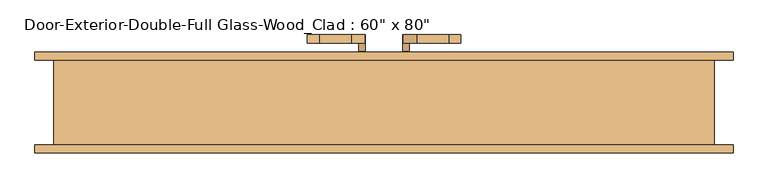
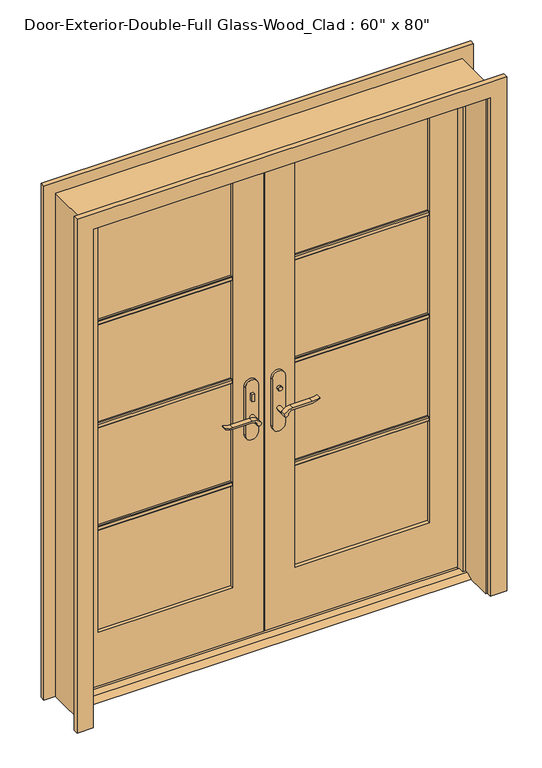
"""IFC4 building model written with IfcOpenShell, lengths in millimetres: door geometry."""

from ifc_helpers import new_model, si_unit, point, frame, frame_2d, origin, place, context, project, spatial, polyline, circle_curve, trimmed, segment, composite_curve, outline, extrude, faceted_brep, source, transform, mapped, element, save


def door_8f7b1e5f(model_context):
    return source(origin(), model_context, "Body", "SolidModel", [
        extrude(outline(polyline([(19.05, 12.7), (53.975, 12.7), (79.375, 0.0), (-6.35, 0.0), (19.05, 12.7)])), frame((-762.0, 0.0, 0.0), z_axis=(1.0, 0.0, 0.0), x_axis=(0.0, 1.0, 0.0)), (0.0, 0.0, 1.0), 1524.0),
        extrude(outline(polyline([(-47.4019111, 43.5), (-57.4019111, 43.5), (-57.4019111, 53.5), (-47.4019111, 53.5), (-47.4019111, 43.5)])), frame((0.0, 0.0, 981.9), z_axis=(0.0, 0.0, 1.0), x_axis=(1.0, 0.0, 0.0)), (0.0, 0.0, 1.0), 30.0),
        extrude(outline(composite_curve([segment(trimmed(circle_curve(frame_2d((996.9, -52.4019111)), 8.0), [point((996.9, -60.4019111))], [point((996.9, -44.4019111))], False, "CARTESIAN"), True, "CONTINUOUS"), segment(trimmed(circle_curve(frame_2d((996.9, -52.4019111)), 8.0), [point((996.9, -44.4019111))], [point((996.9, -60.4019111))], False, "CARTESIAN"), True, "CONTINUOUS")], self_intersect=False)), frame((0.0, 108.425, 0.0), z_axis=(0.0, 1.0, 0.0), x_axis=(0.0, 0.0, 1.0)), (0.0, 0.0, 1.0), 10.0),
        extrude(outline(composite_curve([segment(trimmed(circle_curve(frame_2d((897.1555521, -76.0694241)), 37.2832219), [point((919.0523287, -45.8937749))], [point((934.4, -77.7693445))], False, "CARTESIAN"), True, "CONTINUOUS"), segment(polyline([(934.4, -77.7693445), (934.4, -154.045502)]), True, "CONTINUOUS"), segment(trimmed(circle_curve(frame_2d((1017.6850638, -153.9791202)), 83.2850902), [point((934.4, -154.045502))], [point((939.4, -182.4019111))], True, "CARTESIAN"), True, "CONTINUOUS"), segment(polyline([(939.4, -182.4019111), (936.6135558, -182.4019111)]), True, "CONTINUOUS"), segment(trimmed(circle_curve(frame_2d((986.6709207, -150.4622499)), 59.3791355), [point((936.6135558, -182.4019111))], [point((927.4, -154.045502))], False, "CARTESIAN"), True, "CONTINUOUS"), segment(polyline([(927.4, -154.045502), (927.4, -77.7881013)]), True, "CONTINUOUS"), segment(trimmed(circle_curve(frame_2d((909.2738613, -77.7881013)), 18.1261387), [point((927.4, -77.7881013))], [point((914.4, -60.4019111))], True, "CARTESIAN"), True, "CONTINUOUS"), segment(trimmed(circle_curve(frame_2d((914.4, -52.4019111)), 8.0), [point((914.4, -60.4019111))], [point((919.0523287, -45.8937749))], False, "CARTESIAN"), True, "CONTINUOUS")], self_intersect=False)), frame((0.0, 3.5, 0.0), z_axis=(0.0, 1.0, 0.0), x_axis=(0.0, 0.0, 1.0)), (0.0, 0.0, 1.0), 20.0),
        extrude(outline(composite_curve([segment(trimmed(circle_curve(frame_2d((914.4, -52.4019111)), 8.0), [point((914.3999903, -60.4019111))], [point((919.0523287, -45.8937749))], False, "CARTESIAN"), True, "CONTINUOUS"), segment(trimmed(circle_curve(frame_2d((897.1555521, -76.0694241)), 37.2832219), [point((919.0523287, -45.8937749))], [point((934.4, -77.7693445))], False, "CARTESIAN"), True, "CONTINUOUS"), segment(polyline([(934.4, -77.7693445), (934.4, -154.045502)]), True, "CONTINUOUS"), segment(trimmed(circle_curve(frame_2d((1017.6850638, -153.9791202)), 83.2850902), [point((934.4, -154.045502))], [point((939.4, -182.4019111))], True, "CARTESIAN"), True, "CONTINUOUS"), segment(polyline([(939.4, -182.4019111), (936.6135558, -182.4019111)]), True, "CONTINUOUS"), segment(trimmed(circle_curve(frame_2d((986.6709207, -150.4622499)), 59.3791355), [point((936.6135558, -182.4019111))], [point((927.4, -154.045502))], False, "CARTESIAN"), True, "CONTINUOUS"), segment(polyline([(927.4, -154.045502), (927.4, -77.788099)]), True, "CONTINUOUS"), segment(trimmed(circle_curve(frame_2d((909.2738682, -77.788099)), 18.1261318), [point((927.4, -77.788099))], [point((914.3999903, -60.4019111))], True, "CARTESIAN"), True, "CONTINUOUS")], self_intersect=False)), frame((0.0, 138.425, 0.0), z_axis=(0.0, 1.0, 0.0), x_axis=(0.0, 0.0, 1.0)), (0.0, 0.0, 1.0), 20.0),
        extrude(outline(composite_curve([segment(trimmed(circle_curve(frame_2d((914.4, -52.4019111)), 8.0), [point((914.4, -60.4019111))], [point((914.4, -44.4019111))], False, "CARTESIAN"), True, "CONTINUOUS"), segment(trimmed(circle_curve(frame_2d((914.4, -52.4019111)), 8.0), [point((914.4, -44.4019111))], [point((914.4, -60.4019111))], False, "CARTESIAN"), True, "CONTINUOUS")], self_intersect=False)), frame((0.0, 23.5, 0.0), z_axis=(0.0, 1.0, 0.0), x_axis=(0.0, 0.0, 1.0)), (0.0, 0.0, 1.0), 30.0),
        extrude(outline(composite_curve([segment(trimmed(circle_curve(frame_2d((914.4, -52.4019111)), 8.0), [point((914.4, -60.4019111))], [point((914.4, -44.4019111))], False, "CARTESIAN"), True, "CONTINUOUS"), segment(trimmed(circle_curve(frame_2d((914.4, -52.4019111)), 8.0), [point((914.4, -44.4019111))], [point((914.4, -60.4019111))], False, "CARTESIAN"), True, "CONTINUOUS")], self_intersect=False)), frame((0.0, 108.425, 0.0), z_axis=(0.0, 1.0, 0.0), x_axis=(0.0, 0.0, 1.0)), (0.0, 0.0, 1.0), 30.0),
        extrude(outline(composite_curve([segment(polyline([(844.4, -27.4019111), (1039.4, -27.4019111)]), True, "CONTINUOUS"), segment(trimmed(circle_curve(frame_2d((1039.4, -52.4019111)), 25.0), [point((1039.4, -27.4019111))], [point((1039.4, -77.4019111))], False, "CARTESIAN"), True, "CONTINUOUS"), segment(polyline([(1039.4, -77.4019111), (844.4, -77.4019111)]), True, "CONTINUOUS"), segment(trimmed(circle_curve(frame_2d((844.4, -52.4019111)), 25.0), [point((844.4, -77.4019111))], [point((844.4, -27.4019111))], False, "CARTESIAN"), True, "CONTINUOUS")], self_intersect=False)), frame((0.0, 53.5, 0.0), z_axis=(0.0, 1.0, 0.0), x_axis=(0.0, 0.0, 1.0)), (0.0, 0.0, 1.0), 10.0),
        extrude(outline(composite_curve([segment(polyline([(844.4, -27.4019111), (1039.4, -27.4019111)]), True, "CONTINUOUS"), segment(trimmed(circle_curve(frame_2d((1039.4, -52.4019111)), 25.0), [point((1039.4, -27.4019111))], [point((1039.4, -77.4019111))], False, "CARTESIAN"), True, "CONTINUOUS"), segment(polyline([(1039.4, -77.4019111), (844.4, -77.4019111)]), True, "CONTINUOUS"), segment(trimmed(circle_curve(frame_2d((844.4, -52.4019111)), 25.0), [point((844.4, -77.4019111))], [point((844.4, -27.4019111))], False, "CARTESIAN"), True, "CONTINUOUS")], self_intersect=False)), frame((0.0, 98.425, 0.0), z_axis=(0.0, 1.0, 0.0), x_axis=(0.0, 0.0, 1.0)), (0.0, 0.0, 1.0), 10.0),
        extrude(outline(polyline([(47.3875, 118.425), (57.3875, 118.425), (57.3875, 108.425), (47.3875, 108.425), (47.3875, 118.425)])), frame((0.0, 0.0, 981.9), z_axis=(0.0, 0.0, 1.0), x_axis=(1.0, 0.0, 0.0)), (0.0, 0.0, 1.0), 30.0),
        extrude(outline(composite_curve([segment(trimmed(circle_curve(frame_2d((996.9, 52.3875)), 8.0), [point((996.9, 60.3875))], [point((996.9, 44.3875))], False, "CARTESIAN"), True, "CONTINUOUS"), segment(trimmed(circle_curve(frame_2d((996.9, 52.3875)), 8.0), [point((996.9, 44.3875))], [point((996.9, 60.3875))], False, "CARTESIAN"), True, "CONTINUOUS")], self_intersect=False)), frame((0.0, 43.5, 0.0), z_axis=(0.0, 1.0, 0.0), x_axis=(0.0, 0.0, 1.0)), (0.0, 0.0, 1.0), 10.0),
        extrude(outline(composite_curve([segment(trimmed(circle_curve(frame_2d((914.4, 52.3875)), 8.0), [point((919.0523287, 45.8793637))], [point((914.4, 60.3875))], False, "CARTESIAN"), True, "CONTINUOUS"), segment(trimmed(circle_curve(frame_2d((909.2738613, 77.7736901)), 18.1261387), [point((914.4, 60.3875))], [point((927.4, 77.7736901))], True, "CARTESIAN"), True, "CONTINUOUS"), segment(polyline([(927.4, 77.7736901), (927.4, 154.0310909)]), True, "CONTINUOUS"), segment(trimmed(circle_curve(frame_2d((986.6709207, 150.4478388)), 59.3791355), [point((927.4, 154.0310909))], [point((936.6135558, 182.3875))], False, "CARTESIAN"), True, "CONTINUOUS"), segment(polyline([(936.6135558, 182.3875), (939.4, 182.3875)]), True, "CONTINUOUS"), segment(trimmed(circle_curve(frame_2d((1017.6850638, 153.9647091)), 83.2850902), [point((939.4, 182.3875))], [point((934.4, 154.0310909))], True, "CARTESIAN"), True, "CONTINUOUS"), segment(polyline([(934.4, 154.0310909), (934.4, 77.7549333)]), True, "CONTINUOUS"), segment(trimmed(circle_curve(frame_2d((897.1555521, 76.0550129)), 37.2832219), [point((934.4, 77.7549333))], [point((919.0523287, 45.8793637))], False, "CARTESIAN"), True, "CONTINUOUS")], self_intersect=False)), frame((0.0, 138.425, 0.0), z_axis=(0.0, 1.0, 0.0), x_axis=(0.0, 0.0, 1.0)), (0.0, 0.0, 1.0), 20.0),
        extrude(outline(composite_curve([segment(trimmed(circle_curve(frame_2d((909.2738682, 77.7736878)), 18.1261318), [point((914.3999903, 60.3875))], [point((927.4, 77.7736878))], True, "CARTESIAN"), True, "CONTINUOUS"), segment(polyline([(927.4, 77.7736878), (927.4, 154.0310909)]), True, "CONTINUOUS"), segment(trimmed(circle_curve(frame_2d((986.6709207, 150.4478388)), 59.3791355), [point((927.4, 154.0310909))], [point((936.6135558, 182.3875))], False, "CARTESIAN"), True, "CONTINUOUS"), segment(polyline([(936.6135558, 182.3875), (939.4, 182.3875)]), True, "CONTINUOUS"), segment(trimmed(circle_curve(frame_2d((1017.6850638, 153.9647091)), 83.2850902), [point((939.4, 182.3875))], [point((934.4, 154.0310909))], True, "CARTESIAN"), True, "CONTINUOUS"), segment(polyline([(934.4, 154.0310909), (934.4, 77.7549333)]), True, "CONTINUOUS"), segment(trimmed(circle_curve(frame_2d((897.1555521, 76.0550129)), 37.2832219), [point((934.4, 77.7549333))], [point((919.0523287, 45.8793637))], False, "CARTESIAN"), True, "CONTINUOUS"), segment(trimmed(circle_curve(frame_2d((914.4, 52.3875)), 8.0), [point((919.0523287, 45.8793637))], [point((914.3999903, 60.3875))], False, "CARTESIAN"), True, "CONTINUOUS")], self_intersect=False)), frame((0.0, 3.5, 0.0), z_axis=(0.0, 1.0, 0.0), x_axis=(0.0, 0.0, 1.0)), (0.0, 0.0, 1.0), 20.0),
        extrude(outline(composite_curve([segment(trimmed(circle_curve(frame_2d((914.4, 52.3875)), 8.0), [point((914.4, 60.3875))], [point((914.4, 44.3875))], False, "CARTESIAN"), True, "CONTINUOUS"), segment(trimmed(circle_curve(frame_2d((914.4, 52.3875)), 8.0), [point((914.4, 44.3875))], [point((914.4, 60.3875))], False, "CARTESIAN"), True, "CONTINUOUS")], self_intersect=False)), frame((0.0, 108.425, 0.0), z_axis=(0.0, 1.0, 0.0), x_axis=(0.0, 0.0, 1.0)), (0.0, 0.0, 1.0), 30.0),
        extrude(outline(composite_curve([segment(trimmed(circle_curve(frame_2d((914.4, 52.3875)), 8.0), [point((914.4, 60.3875))], [point((914.4, 44.3875))], False, "CARTESIAN"), True, "CONTINUOUS"), segment(trimmed(circle_curve(frame_2d((914.4, 52.3875)), 8.0), [point((914.4, 44.3875))], [point((914.4, 60.3875))], False, "CARTESIAN"), True, "CONTINUOUS")], self_intersect=False)), frame((0.0, 23.5, 0.0), z_axis=(0.0, 1.0, 0.0), x_axis=(0.0, 0.0, 1.0)), (0.0, 0.0, 1.0), 30.0),
        extrude(outline(composite_curve([segment(trimmed(circle_curve(frame_2d((844.4, 52.3875)), 25.0), [point((844.4, 27.3875))], [point((844.4, 77.3875))], False, "CARTESIAN"), True, "CONTINUOUS"), segment(polyline([(844.4, 77.3875), (1039.4, 77.3875)]), True, "CONTINUOUS"), segment(trimmed(circle_curve(frame_2d((1039.4, 52.3875)), 25.0), [point((1039.4, 77.3875))], [point((1039.4, 27.3875))], False, "CARTESIAN"), True, "CONTINUOUS"), segment(polyline([(1039.4, 27.3875), (844.4, 27.3875)]), True, "CONTINUOUS")], self_intersect=False)), frame((0.0, 98.425, 0.0), z_axis=(0.0, 1.0, 0.0), x_axis=(0.0, 0.0, 1.0)), (0.0, 0.0, 1.0), 10.0),
        extrude(outline(composite_curve([segment(trimmed(circle_curve(frame_2d((844.4, 52.3875)), 25.0), [point((844.4, 27.3875))], [point((844.4, 77.3875))], False, "CARTESIAN"), True, "CONTINUOUS"), segment(polyline([(844.4, 77.3875), (1039.4, 77.3875)]), True, "CONTINUOUS"), segment(trimmed(circle_curve(frame_2d((1039.4, 52.3875)), 25.0), [point((1039.4, 77.3875))], [point((1039.4, 27.3875))], False, "CARTESIAN"), True, "CONTINUOUS"), segment(polyline([(1039.4, 27.3875), (844.4, 27.3875)]), True, "CONTINUOUS")], self_intersect=False)), frame((0.0, 53.5, 0.0), z_axis=(0.0, 1.0, 0.0), x_axis=(0.0, 0.0, 1.0)), (0.0, 0.0, 1.0), 10.0),
        extrude(outline(polyline([(77.47, 1502.171875), (77.47, 1483.121875), (71.12, 1483.121875), (67.945, 1486.296875), (67.945, 1498.996875), (71.12, 1502.171875), (77.47, 1502.171875)])), frame((120.65, 0.0, 0.0), z_axis=(1.0, 0.0, 0.0), x_axis=(0.0, 1.0, 0.0)), (0.0, 0.0, 1.0), 520.7),
        extrude(outline(polyline([(77.47, 1081.88125), (77.47, 1062.83125), (71.12, 1062.83125), (67.945, 1066.00625), (67.945, 1078.70625), (71.12, 1081.88125), (77.47, 1081.88125)])), frame((120.65, 0.0, 0.0), z_axis=(1.0, 0.0, 0.0), x_axis=(0.0, 1.0, 0.0)), (0.0, 0.0, 1.0), 520.7),
        extrude(outline(polyline([(77.47, 661.590625), (77.47, 642.540625), (71.12, 642.540625), (67.945, 645.715625), (67.945, 658.415625), (71.12, 661.590625), (77.47, 661.590625)])), frame((120.65, 0.0, 0.0), z_axis=(1.0, 0.0, 0.0), x_axis=(0.0, 1.0, 0.0)), (0.0, 0.0, 1.0), 520.7),
        extrude(outline(polyline([(84.455, 1502.171875), (90.805, 1502.171875), (93.98, 1498.996875), (93.98, 1486.296875), (90.805, 1483.121875), (84.455, 1483.121875), (84.455, 1502.171875)])), frame((-641.35, 0.0, 0.0), z_axis=(1.0, 0.0, 0.0), x_axis=(0.0, 1.0, 0.0)), (0.0, 0.0, 1.0), 520.7),
        extrude(outline(polyline([(84.455, 1081.88125), (90.805, 1081.88125), (93.98, 1078.70625), (93.98, 1066.00625), (90.805, 1062.83125), (84.455, 1062.83125), (84.455, 1081.88125)])), frame((-641.35, 0.0, 0.0), z_axis=(1.0, 0.0, 0.0), x_axis=(0.0, 1.0, 0.0)), (0.0, 0.0, 1.0), 520.7),
        extrude(outline(polyline([(84.455, 661.590625), (90.805, 661.590625), (93.98, 658.415625), (93.98, 645.715625), (90.805, 642.540625), (84.455, 642.540625), (84.455, 661.590625)])), frame((-641.35, 0.0, 0.0), z_axis=(1.0, 0.0, 0.0), x_axis=(0.0, 1.0, 0.0)), (0.0, 0.0, 1.0), 520.7),
        extrude(outline(polyline([(84.455, 1502.171875), (90.805, 1502.171875), (93.98, 1498.996875), (93.98, 1486.296875), (90.805, 1483.121875), (84.455, 1483.121875), (84.455, 1502.171875)])), frame((120.65, 0.0, 0.0), z_axis=(1.0, 0.0, 0.0), x_axis=(0.0, 1.0, 0.0)), (0.0, 0.0, 1.0), 520.7),
        extrude(outline(polyline([(84.455, 1081.88125), (90.805, 1081.88125), (93.98, 1078.70625), (93.98, 1066.00625), (90.805, 1062.83125), (84.455, 1062.83125), (84.455, 1081.88125)])), frame((120.65, 0.0, 0.0), z_axis=(1.0, 0.0, 0.0), x_axis=(0.0, 1.0, 0.0)), (0.0, 0.0, 1.0), 520.7),
        extrude(outline(polyline([(84.455, 661.590625), (90.805, 661.590625), (93.98, 658.415625), (93.98, 645.715625), (90.805, 642.540625), (84.455, 642.540625), (84.455, 661.590625)])), frame((120.65, 0.0, 0.0), z_axis=(1.0, 0.0, 0.0), x_axis=(0.0, 1.0, 0.0)), (0.0, 0.0, 1.0), 520.7),
        extrude(outline(polyline([(77.47, 1502.171875), (77.47, 1483.121875), (71.12, 1483.121875), (67.945, 1486.296875), (67.945, 1498.996875), (71.12, 1502.171875), (77.47, 1502.171875)])), frame((-641.35, 0.0, 0.0), z_axis=(1.0, 0.0, 0.0), x_axis=(0.0, 1.0, 0.0)), (0.0, 0.0, 1.0), 520.7),
        extrude(outline(polyline([(77.47, 1081.88125), (77.47, 1062.83125), (71.12, 1062.83125), (67.945, 1066.00625), (67.945, 1078.70625), (71.12, 1081.88125), (77.47, 1081.88125)])), frame((-641.35, 0.0, 0.0), z_axis=(1.0, 0.0, 0.0), x_axis=(0.0, 1.0, 0.0)), (0.0, 0.0, 1.0), 520.7),
        extrude(outline(polyline([(77.47, 661.590625), (77.47, 642.540625), (71.12, 642.540625), (67.945, 645.715625), (67.945, 658.415625), (71.12, 661.590625), (77.47, 661.590625)])), frame((-641.35, 0.0, 0.0), z_axis=(1.0, 0.0, 0.0), x_axis=(0.0, 1.0, 0.0)), (0.0, 0.0, 1.0), 520.7),
        extrude(outline(polyline([(0.0, 768.35), (0.0, 831.85), (2101.85, 831.85), (2101.85, -831.85), (0.0, -831.85), (0.0, -768.35), (2038.35, -768.35), (2038.35, 768.35), (0.0, 768.35)])), frame((0.0, 98.425, 0.0), z_axis=(0.0, 1.0, 0.0), x_axis=(0.0, 0.0, 1.0)), (0.0, 0.0, 1.0), 19.05),
        extrude(outline(polyline([(0.0, 768.35), (0.0, 831.85), (2101.85, 831.85), (2101.85, -831.85), (0.0, -831.85), (0.0, -768.35), (2038.35, -768.35), (2038.35, 768.35), (0.0, 768.35)])), frame((0.0, -123.825, 0.0), z_axis=(0.0, 1.0, 0.0), x_axis=(0.0, 0.0, 1.0)), (0.0, 0.0, 1.0), 19.05),
        extrude(outline(polyline([(12.7, 762.0), (2032.0, 762.0), (2032.0, 1.5875), (12.7, 1.5875), (12.7, 762.0)]), holes=[polyline([(1912.9375, 120.65), (1912.9375, 641.35), (231.775, 641.35), (231.775, 120.65), (1912.9375, 120.65)])]), frame((0.0, 63.5, 0.0), z_axis=(0.0, 1.0, 0.0), x_axis=(0.0, 0.0, 1.0)), (0.0, 0.0, 1.0), 34.925),
        extrude(outline(polyline([(2032.0, -762.0), (12.7, -762.0), (12.7, -1.6019111), (2032.0, -1.6019111), (2032.0, -762.0)]), holes=[polyline([(231.775, -641.35), (1912.9375, -641.35), (1912.9375, -120.65), (231.775, -120.65), (231.775, -641.35)])]), frame((0.0, 63.5, 0.0), z_axis=(0.0, 1.0, 0.0), x_axis=(0.0, 0.0, 1.0)), (0.0, 0.0, 1.0), 34.925),
        faceted_brep([(787.4, 98.425, 0.0), (787.4, -104.775, 0.0), (762.0, -104.775, 0.0), (762.0, 28.575, 0.0), (749.3, 28.575, 0.0), (749.3, 63.5, 0.0), (762.0, 63.5, 0.0), (762.0, 98.425, 0.0), (787.4, 98.425, 2057.4), (787.4, -104.775, 2057.4), (-787.4, -104.775, 2057.4), (-787.4, -104.775, 0.0), (-762.0, -104.775, 0.0), (-762.0, -104.775, 2032.0), (762.0, -104.775, 2032.0), (762.0, 28.575, 2032.0), (-762.0, 28.575, 2032.0), (-762.0, 28.575, 0.0), (-749.3, 28.575, 0.0), (-749.3, 28.575, 2019.3), (749.3, 28.575, 2019.3), (749.3, 63.5, 2019.3), (1.5875, 63.5, 2019.3), (-1.6019111, 63.5, 2019.3), (-749.3, 63.5, 2019.3), (-749.3, 63.5, 0.0), (-762.0, 63.5, 0.0), (-762.0, 63.5, 2032.0), (-1.6019111, 63.5, 2032.0), (1.5875, 63.5, 2032.0), (762.0, 63.5, 2032.0), (762.0, 98.425, 2032.0), (1.5875, 98.425, 2032.0), (-1.6019111, 98.425, 2032.0), (-762.0, 98.425, 2032.0), (-762.0, 98.425, 0.0), (-787.4, 98.425, 0.0), (-787.4, 98.425, 2057.4)], [[[0, 1, 2, 3, 4, 5, 6, 7]], [[1, 0, 8, 9]], [[2, 1, 9, 10, 11, 12, 13, 14]], [[3, 2, 14, 15]], [[4, 3, 15, 16, 17, 18, 19, 20]], [[5, 4, 20, 21]], [[6, 5, 21, 22, 23, 24, 25, 26, 27, 28, 29, 30]], [[7, 6, 30, 31]], [[0, 7, 31, 32, 33, 34, 35, 36, 37, 8]], [[9, 8, 37, 10]], [[14, 13, 16, 15]], [[20, 19, 24, 23, 22, 21]], [[31, 30, 29, 28, 27, 34, 33, 32]], [[12, 11, 36, 35, 26, 25, 18, 17]], [[11, 10, 37, 36]], [[13, 12, 17, 16]], [[19, 18, 25, 24]], [[27, 26, 35, 34]]]),
        extrude(outline(polyline([(641.35, 77.47), (120.65, 77.47), (120.65, 84.455), (641.35, 84.455), (641.35, 77.47)])), frame((0.0, 0.0, 231.775), z_axis=(0.0, 0.0, 1.0), x_axis=(1.0, 0.0, 0.0)), (0.0, 0.0, 1.0), 1681.1625),
        extrude(outline(polyline([(-120.65, 77.47), (-641.35, 77.47), (-641.35, 84.455), (-120.65, 84.455), (-120.65, 77.47)])), frame((0.0, 0.0, 231.775), z_axis=(0.0, 0.0, 1.0), x_axis=(1.0, 0.0, 0.0)), (0.0, 0.0, 1.0), 1681.1625),
    ])


if __name__ == "__main__":
    model = new_model("IFC4")
    model_context = context("Model", 3, world=origin())
    ifc_project = project(units=[si_unit("LENGTHUNIT", "METRE", prefix="MILLI")], contexts=[model_context])
    site = spatial("IfcSite", under=ifc_project)
    building = spatial("IfcBuilding", under=site)
    placement = place(None, origin())
    door_shape = door_8f7b1e5f(model_context)
    element("IfcDoor", 1, ObjectType="Door-Exterior-Double-Full Glass-Wood_Clad : 60\" x 80\"", at=placement, inside=building, context=model_context, shape_type="MappedRepresentation", body=[
        mapped(door_shape, transform((0.0, 0.0, 0.0), x_axis=(1.0, 0.0, 0.0), y_axis=(0.0, 1.0, 0.0), z_axis=(0.0, 0.0, 1.0))),
    ])
    save(model, "model.ifc")
